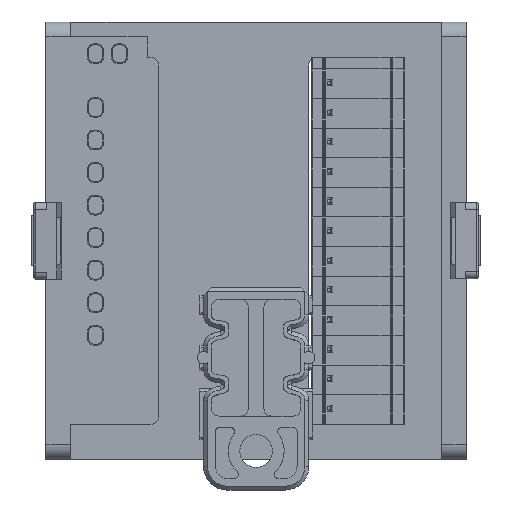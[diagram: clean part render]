
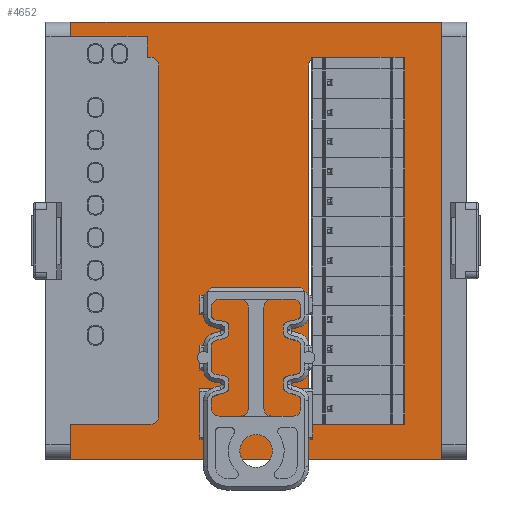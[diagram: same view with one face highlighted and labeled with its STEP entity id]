
A CAD part, front view. The second image highlights one B-rep face of the part: STEP entity #4652.
In plain terms, the highlighted planar face has unit normal (0, -1, 0).
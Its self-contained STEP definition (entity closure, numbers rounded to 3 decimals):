
#1845=PLANE('',#34678);
#2141=FACE_BOUND('',#8168,.T.);
#2142=FACE_BOUND('',#8169,.T.);
#2882=CIRCLE('',#34450,1.);
#2924=CIRCLE('',#34494,1.);
#2973=CIRCLE('',#34638,1.);
#2975=CIRCLE('',#34641,1.);
#2977=CIRCLE('',#34645,1.);
#2979=CIRCLE('',#34648,1.);
#4652=ADVANCED_FACE('',(#2141,#2142),#1845,.T.);
#8168=EDGE_LOOP('',(#22795,#22796,#22797,#22798,#22799,#22800,#22801,#22802,
#22803,#22804,#22805,#22806));
#8169=EDGE_LOOP('',(#22807,#22808,#22809,#22810,#22811,#22812,#22813,#22814));
#11185=LINE('',#55571,#14402);
#11192=LINE('',#55589,#14409);
#11201=LINE('',#55616,#14418);
#11207=LINE('',#55637,#14424);
#11209=LINE('',#55640,#14426);
#11211=LINE('',#55643,#14428);
#11213=LINE('',#55647,#14430);
#11214=LINE('',#55649,#14431);
#11217=LINE('',#55655,#14434);
#11220=LINE('',#55661,#14437);
#11227=LINE('',#55682,#14444);
#11228=LINE('',#55686,#14445);
#11229=LINE('',#55688,#14446);
#11232=LINE('',#55700,#14449);
#14402=VECTOR('',#42292,1.);
#14409=VECTOR('',#42301,1.);
#14418=VECTOR('',#42324,1.);
#14424=VECTOR('',#42344,1.);
#14426=VECTOR('',#42348,1.);
#14428=VECTOR('',#42352,1.);
#14430=VECTOR('',#42358,1.);
#14431=VECTOR('',#42361,1.);
#14434=VECTOR('',#42366,1.);
#14437=VECTOR('',#42371,1.);
#14444=VECTOR('',#42388,1.);
#14445=VECTOR('',#42395,1.);
#14446=VECTOR('',#42398,1.);
#14449=VECTOR('',#42417,1.);
#22795=ORIENTED_EDGE('',*,*,#31043,.T.);
#22796=ORIENTED_EDGE('',*,*,#31413,.F.);
#22797=ORIENTED_EDGE('',*,*,#31430,.F.);
#22798=ORIENTED_EDGE('',*,*,#31380,.T.);
#22799=ORIENTED_EDGE('',*,*,#31429,.F.);
#22800=ORIENTED_EDGE('',*,*,#31372,.T.);
#22801=ORIENTED_EDGE('',*,*,#31437,.F.);
#22802=ORIENTED_EDGE('',*,*,#31416,.F.);
#22803=ORIENTED_EDGE('',*,*,#31426,.F.);
#22804=ORIENTED_EDGE('',*,*,#31410,.T.);
#22805=ORIENTED_EDGE('',*,*,#31143,.T.);
#22806=ORIENTED_EDGE('',*,*,#31409,.F.);
#22807=ORIENTED_EDGE('',*,*,#31390,.T.);
#22808=ORIENTED_EDGE('',*,*,#31405,.T.);
#22809=ORIENTED_EDGE('',*,*,#31396,.T.);
#22810=ORIENTED_EDGE('',*,*,#31403,.F.);
#22811=ORIENTED_EDGE('',*,*,#31400,.T.);
#22812=ORIENTED_EDGE('',*,*,#31407,.F.);
#22813=ORIENTED_EDGE('',*,*,#31386,.T.);
#22814=ORIENTED_EDGE('',*,*,#31393,.F.);
#26727=VERTEX_POINT('',#54888);
#26728=VERTEX_POINT('',#54890);
#26824=VERTEX_POINT('',#55089);
#26825=VERTEX_POINT('',#55091);
#26964=VERTEX_POINT('',#55570);
#26965=VERTEX_POINT('',#55572);
#26970=VERTEX_POINT('',#55588);
#26971=VERTEX_POINT('',#55590);
#26974=VERTEX_POINT('',#55599);
#26976=VERTEX_POINT('',#55602);
#26978=VERTEX_POINT('',#55608);
#26980=VERTEX_POINT('',#55611);
#26982=VERTEX_POINT('',#55620);
#26984=VERTEX_POINT('',#55623);
#26986=VERTEX_POINT('',#55629);
#26988=VERTEX_POINT('',#55632);
#26990=VERTEX_POINT('',#55650);
#26991=VERTEX_POINT('',#55654);
#26992=VERTEX_POINT('',#55658);
#26993=VERTEX_POINT('',#55660);
#31043=EDGE_CURVE('',#26728,#26727,#2882,.T.);
#31143=EDGE_CURVE('',#26824,#26825,#2924,.T.);
#31372=EDGE_CURVE('',#26965,#26964,#11185,.T.);
#31380=EDGE_CURVE('',#26971,#26970,#11192,.T.);
#31386=EDGE_CURVE('',#26976,#26974,#2973,.T.);
#31390=EDGE_CURVE('',#26980,#26978,#2975,.T.);
#31393=EDGE_CURVE('',#26980,#26974,#11201,.T.);
#31396=EDGE_CURVE('',#26984,#26982,#2977,.T.);
#31400=EDGE_CURVE('',#26988,#26986,#2979,.T.);
#31403=EDGE_CURVE('',#26988,#26982,#11207,.T.);
#31405=EDGE_CURVE('',#26978,#26984,#11209,.T.);
#31407=EDGE_CURVE('',#26976,#26986,#11211,.T.);
#31409=EDGE_CURVE('',#26728,#26825,#11213,.T.);
#31410=EDGE_CURVE('',#26990,#26824,#11214,.T.);
#31413=EDGE_CURVE('',#26991,#26727,#11217,.T.);
#31416=EDGE_CURVE('',#26993,#26992,#11220,.T.);
#31426=EDGE_CURVE('',#26990,#26993,#11227,.T.);
#31429=EDGE_CURVE('',#26965,#26970,#11228,.T.);
#31430=EDGE_CURVE('',#26971,#26991,#11229,.T.);
#31437=EDGE_CURVE('',#26992,#26964,#11232,.T.);
#34450=AXIS2_PLACEMENT_3D('',#54889,#41688,#41689);
#34494=AXIS2_PLACEMENT_3D('',#55092,#41833,#41834);
#34638=AXIS2_PLACEMENT_3D('',#55601,#42309,#42310);
#34641=AXIS2_PLACEMENT_3D('',#55610,#42317,#42318);
#34645=AXIS2_PLACEMENT_3D('',#55622,#42329,#42330);
#34648=AXIS2_PLACEMENT_3D('',#55631,#42337,#42338);
#34678=AXIS2_PLACEMENT_3D('',#55704,#42424,#42425);
#41688=DIRECTION('',(0.,1.,0.));
#41689=DIRECTION('',(0.,0.,-1.));
#41833=DIRECTION('',(0.,1.,0.));
#41834=DIRECTION('',(0.,0.,-1.));
#42292=DIRECTION('',(-1.,0.,0.));
#42301=DIRECTION('',(1.,0.,0.));
#42309=DIRECTION('',(0.,1.,0.));
#42310=DIRECTION('',(0.,0.,-1.));
#42317=DIRECTION('',(0.,1.,0.));
#42318=DIRECTION('',(0.,0.,-1.));
#42324=DIRECTION('',(0.,0.,-1.));
#42329=DIRECTION('',(0.,1.,0.));
#42330=DIRECTION('',(0.,0.,-1.));
#42337=DIRECTION('',(0.,1.,0.));
#42338=DIRECTION('',(0.,0.,-1.));
#42344=DIRECTION('',(0.,0.,1.));
#42348=DIRECTION('',(1.,0.,0.));
#42352=DIRECTION('',(1.,0.,0.));
#42358=DIRECTION('',(0.,0.,1.));
#42361=DIRECTION('',(1.,0.,0.));
#42366=DIRECTION('',(1.,0.,0.));
#42371=DIRECTION('',(-1.,0.,0.));
#42388=DIRECTION('',(0.,0.,1.));
#42395=DIRECTION('',(0.,0.,-1.));
#42398=DIRECTION('',(0.,0.,1.));
#42417=DIRECTION('',(0.,0.,1.));
#42424=DIRECTION('',(0.,-1.,0.));
#42425=DIRECTION('',(-1.,0.,0.));
#54888=CARTESIAN_POINT('',(-418.109,172.008,496.09));
#54889=CARTESIAN_POINT('',(-418.109,172.008,497.09));
#54890=CARTESIAN_POINT('',(-417.109,172.008,497.09));
#55089=CARTESIAN_POINT('',(-418.109,172.008,543.226));
#55091=CARTESIAN_POINT('',(-417.109,172.008,542.226));
#55092=CARTESIAN_POINT('',(-418.109,172.008,542.226));
#55570=CARTESIAN_POINT('',(-428.388,172.008,547.763));
#55571=CARTESIAN_POINT('',(-426.732,172.008,547.763));
#55572=CARTESIAN_POINT('',(-380.738,172.008,547.763));
#55588=CARTESIAN_POINT('',(-380.738,172.008,491.558));
#55589=CARTESIAN_POINT('',(-426.732,172.008,491.558));
#55590=CARTESIAN_POINT('',(-428.388,172.008,491.558));
#55599=CARTESIAN_POINT('',(-397.859,172.008,497.09));
#55601=CARTESIAN_POINT('',(-396.859,172.008,497.09));
#55602=CARTESIAN_POINT('',(-396.859,172.008,496.09));
#55608=CARTESIAN_POINT('',(-396.859,172.008,543.226));
#55610=CARTESIAN_POINT('',(-396.859,172.008,542.226));
#55611=CARTESIAN_POINT('',(-397.859,172.008,542.226));
#55616=CARTESIAN_POINT('',(-397.859,172.008,543.376));
#55620=CARTESIAN_POINT('',(-385.859,172.008,542.226));
#55622=CARTESIAN_POINT('',(-386.859,172.008,542.226));
#55623=CARTESIAN_POINT('',(-386.859,172.008,543.226));
#55629=CARTESIAN_POINT('',(-386.859,172.008,496.09));
#55631=CARTESIAN_POINT('',(-386.859,172.008,497.09));
#55632=CARTESIAN_POINT('',(-385.859,172.008,497.09));
#55637=CARTESIAN_POINT('',(-385.859,172.008,541.579));
#55640=CARTESIAN_POINT('',(-426.732,172.008,543.226));
#55643=CARTESIAN_POINT('',(-426.732,172.008,496.09));
#55647=CARTESIAN_POINT('',(-417.109,172.008,544.858));
#55649=CARTESIAN_POINT('',(-426.732,172.008,543.226));
#55650=CARTESIAN_POINT('',(-418.609,172.008,543.226));
#55654=CARTESIAN_POINT('',(-428.388,172.008,496.09));
#55655=CARTESIAN_POINT('',(-426.732,172.008,496.09));
#55658=CARTESIAN_POINT('',(-428.388,172.008,545.863));
#55660=CARTESIAN_POINT('',(-418.609,172.008,545.863));
#55661=CARTESIAN_POINT('',(-426.732,172.008,545.863));
#55682=CARTESIAN_POINT('',(-418.609,172.008,527.377));
#55686=CARTESIAN_POINT('',(-380.738,172.008,545.363));
#55688=CARTESIAN_POINT('',(-428.388,172.008,545.363));
#55700=CARTESIAN_POINT('',(-428.388,172.008,545.363));
#55704=CARTESIAN_POINT('',(-426.732,172.008,527.377));
